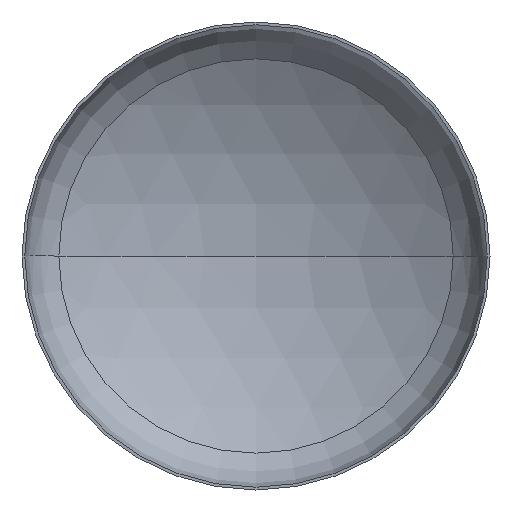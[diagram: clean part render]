
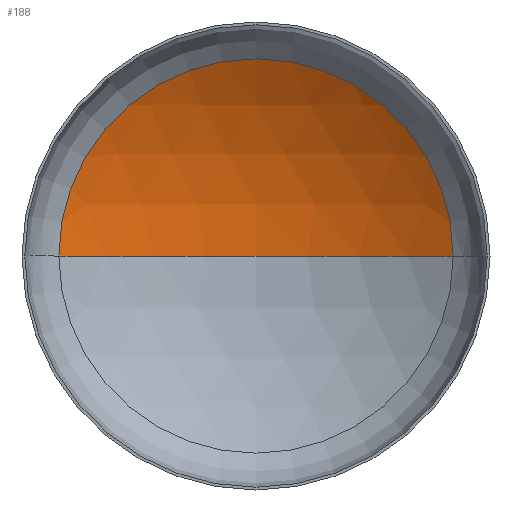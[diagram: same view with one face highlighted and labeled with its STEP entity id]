
A CAD part, front view. The second image highlights one B-rep face of the part: STEP entity #188.
In plain terms, the highlighted spherical face has radius 4400 mm.
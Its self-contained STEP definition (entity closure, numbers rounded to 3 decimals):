
#32 = VERTEX_POINT ( 'NONE', #352 ) ;
#70 = CIRCLE ( 'NONE', #264, 4400. ) ;
#80 = ORIENTED_EDGE ( 'NONE', *, *, #354, .T. ) ;
#83 = VERTEX_POINT ( 'NONE', #136 ) ;
#90 = ORIENTED_EDGE ( 'NONE', *, *, #335, .T. ) ;
#95 = CARTESIAN_POINT ( 'NONE',  ( 0., -2922.191, 0. ) ) ;
#136 = CARTESIAN_POINT ( 'NONE',  ( -2316.962, 818.355, 0. ) ) ;
#152 = VERTEX_POINT ( 'NONE', #243 ) ;
#154 = DIRECTION ( 'NONE',  ( 0., -1., 0. ) ) ;
#162 = CIRCLE ( 'NONE', #301, 2316.962 ) ;
#172 = EDGE_LOOP ( 'NONE', ( #338, #90, #80 ) ) ;
#188 = ADVANCED_FACE ( 'NONE', ( #370 ), #229, .F. ) ;
#202 = AXIS2_PLACEMENT_3D ( 'NONE', #361, #350, #391 ) ;
#228 = DIRECTION ( 'NONE',  ( 0., 0., -1. ) ) ;
#229 = SPHERICAL_SURFACE ( 'NONE', #364, 4400. ) ;
#243 = CARTESIAN_POINT ( 'NONE',  ( 0., 1477.809, 0. ) ) ;
#247 = DIRECTION ( 'NONE',  ( -1., 0., 0. ) ) ;
#262 = CIRCLE ( 'NONE', #202, 4400. ) ;
#264 = AXIS2_PLACEMENT_3D ( 'NONE', #387, #228, #410 ) ;
#278 = DIRECTION ( 'NONE',  ( 0., 0., -1. ) ) ;
#301 = AXIS2_PLACEMENT_3D ( 'NONE', #342, #154, #367 ) ;
#314 = EDGE_CURVE ( 'NONE', #152, #83, #262, .T. ) ;
#335 = EDGE_CURVE ( 'NONE', #152, #32, #70, .T. ) ;
#338 = ORIENTED_EDGE ( 'NONE', *, *, #314, .F. ) ;
#342 = CARTESIAN_POINT ( 'NONE',  ( 0., 818.355, 0. ) ) ;
#350 = DIRECTION ( 'NONE',  ( 0., 0., 1. ) ) ;
#352 = CARTESIAN_POINT ( 'NONE',  ( 2316.962, 818.355, 0. ) ) ;
#354 = EDGE_CURVE ( 'NONE', #32, #83, #162, .T. ) ;
#361 = CARTESIAN_POINT ( 'NONE',  ( 0., -2922.191, 0. ) ) ;
#364 = AXIS2_PLACEMENT_3D ( 'NONE', #95, #278, #247 ) ;
#367 = DIRECTION ( 'NONE',  ( 1., 0., 0. ) ) ;
#370 = FACE_OUTER_BOUND ( 'NONE', #172, .T. ) ;
#387 = CARTESIAN_POINT ( 'NONE',  ( 0., -2922.191, 0. ) ) ;
#391 = DIRECTION ( 'NONE',  ( 1., 0., 0. ) ) ;
#410 = DIRECTION ( 'NONE',  ( -1., 0., 0. ) ) ;
